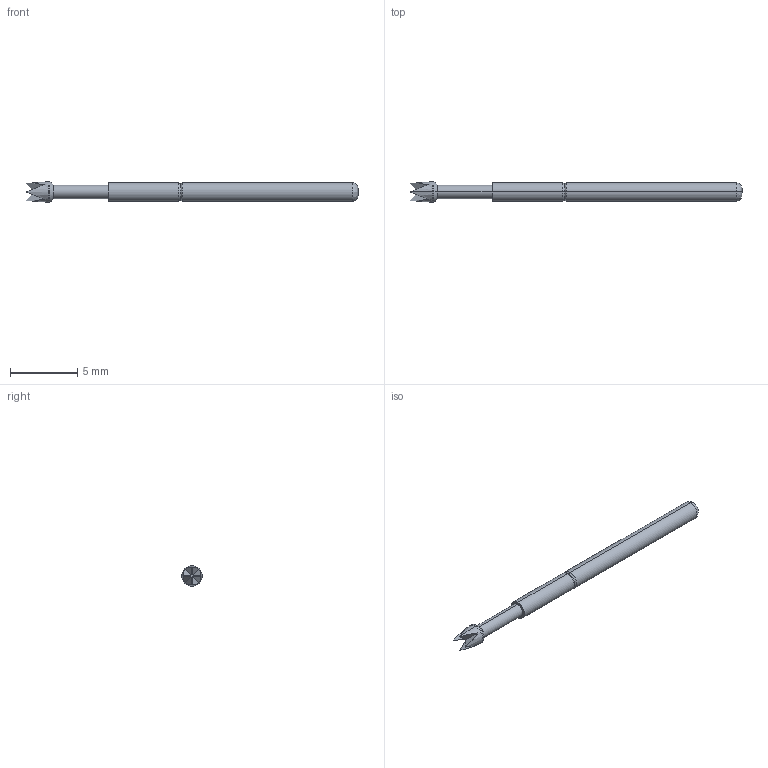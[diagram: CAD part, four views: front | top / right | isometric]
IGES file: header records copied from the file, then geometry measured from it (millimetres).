
Start section: SolidWorks IGES file using analytic representation for surfaces
Global section: file name: Z:\probe solid model mockups\Solidworks models\IGES Files\EPA-2\EPA-2L.IGS; native system: SolidWorks 2006 by SolidWorks Corporation; preprocessor: SolidWorks 2006 by SolidWorks Corporation; author: tsakatani; date: 071220.162312; units: inch
Bounding box: 24.64 x 1.52 x 1.52 mm (x, y, z)
Surface area: 105 mm2 (no closed solid volume)
Topology: 0 solids, 0 shells, 28 faces, 174 edges, 174 vertices
Faces by surface type: bspline 16, revolution 12
